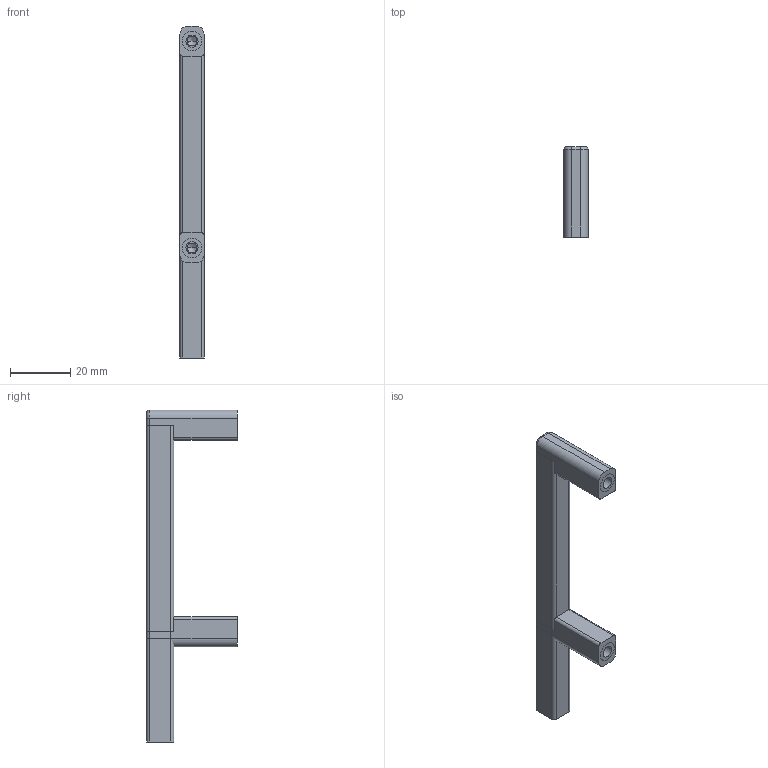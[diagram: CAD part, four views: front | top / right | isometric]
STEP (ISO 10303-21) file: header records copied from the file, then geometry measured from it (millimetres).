
FILE_DESCRIPTION (( 'STEP AP203' ), '1' );
FILE_NAME ('Default.step', '2018-04-28T14:52:16', ( '' ), ( '' ), 'SwSTEP 2.0', 'SolidWorks 2017', '' );
FILE_SCHEMA (( 'CONFIG_CONTROL_DESIGN' ));
Length unit declared in the file: millimetre
Products named in the file (3): Part1; Part3; Default
Assembly tree (3 placements, depth 2):
  Default
    Part3
    Part1  x2
Bounding box: 8 x 30 x 110 mm (x, y, z)
Volume: 10412.2 mm3; surface area: 8505.2 mm2
Topology: 5 solids, 5 shells, 110 faces, 266 edges, 162 vertices
Faces by surface type: cylinder 46, plane 40, cone 12, torus 12
Entity records: 2190 total; most frequent: DIRECTION 355, CARTESIAN_POINT 318, ORIENTED_EDGE 302, EDGE_CURVE 151, AXIS2_PLACEMENT_3D 134, VERTEX_POINT 97, VECTOR 87, LINE 87
